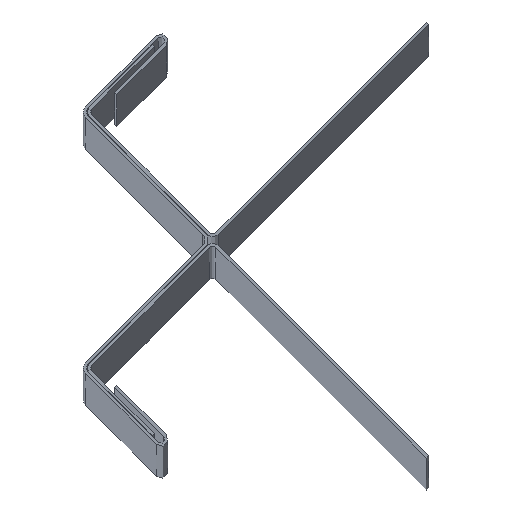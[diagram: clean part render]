
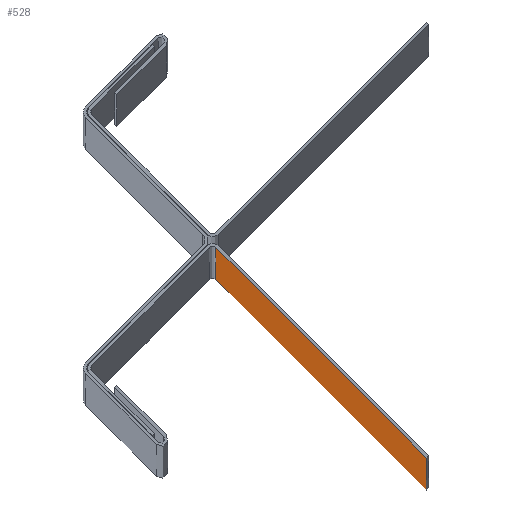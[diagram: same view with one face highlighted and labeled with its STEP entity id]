
A CAD part, top view. The second image highlights one B-rep face of the part: STEP entity #528.
In plain terms, the highlighted planar face has unit normal (0, 1, 0) by its records, which use the part's own axes.
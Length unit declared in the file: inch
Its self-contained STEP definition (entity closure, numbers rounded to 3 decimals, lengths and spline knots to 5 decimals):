
#11 = VERTEX_POINT ( 'NONE', #660 ) ;
#49 = ORIENTED_EDGE ( 'NONE', *, *, #1586, .T. ) ;
#142 = VECTOR ( 'NONE', #611, 39.37008 ) ;
#226 = EDGE_LOOP ( 'NONE', ( #1228, #708, #1257, #49 ) ) ;
#228 = EDGE_CURVE ( 'NONE', #1525, #307, #615, .T. ) ;
#307 = VERTEX_POINT ( 'NONE', #1255 ) ;
#323 = LINE ( 'NONE', #597, #895 ) ;
#396 = EDGE_CURVE ( 'NONE', #1525, #1450, #397, .T. ) ;
#397 = LINE ( 'NONE', #1913, #1296 ) ;
#528 = ADVANCED_FACE ( 'NONE', ( #768 ), #879, .T. ) ;
#597 = CARTESIAN_POINT ( 'NONE',  ( 2., 0.02, 120. ) ) ;
#611 = DIRECTION ( 'NONE',  ( 1., 0., 0. ) ) ;
#615 = LINE ( 'NONE', #951, #1735 ) ;
#624 = AXIS2_PLACEMENT_3D ( 'NONE', #882, #872, #1165 ) ;
#660 = CARTESIAN_POINT ( 'NONE',  ( 2., 0.02, 0. ) ) ;
#708 = ORIENTED_EDGE ( 'NONE', *, *, #396, .F. ) ;
#768 = FACE_OUTER_BOUND ( 'NONE', #226, .T. ) ;
#776 = EDGE_CURVE ( 'NONE', #1450, #11, #1556, .T. ) ;
#872 = DIRECTION ( 'NONE',  ( 0., 1., 0. ) ) ;
#879 = PLANE ( 'NONE',  #624 ) ;
#882 = CARTESIAN_POINT ( 'NONE',  ( 0.05, 0.02, 120. ) ) ;
#895 = VECTOR ( 'NONE', #1212, 39.37008 ) ;
#951 = CARTESIAN_POINT ( 'NONE',  ( 0.05, 0.02, 120. ) ) ;
#1165 = DIRECTION ( 'NONE',  ( -1., 0., 0. ) ) ;
#1212 = DIRECTION ( 'NONE',  ( 0., 0., -1. ) ) ;
#1228 = ORIENTED_EDGE ( 'NONE', *, *, #776, .F. ) ;
#1255 = CARTESIAN_POINT ( 'NONE',  ( 2., 0.02, 120. ) ) ;
#1257 = ORIENTED_EDGE ( 'NONE', *, *, #228, .T. ) ;
#1296 = VECTOR ( 'NONE', #1297, 39.37008 ) ;
#1297 = DIRECTION ( 'NONE',  ( 0., 0., -1. ) ) ;
#1450 = VERTEX_POINT ( 'NONE', #1953 ) ;
#1525 = VERTEX_POINT ( 'NONE', #1533 ) ;
#1529 = CARTESIAN_POINT ( 'NONE',  ( 0.05, 0.02, 0. ) ) ;
#1533 = CARTESIAN_POINT ( 'NONE',  ( 0.05, 0.02, 120. ) ) ;
#1556 = LINE ( 'NONE', #1529, #142 ) ;
#1586 = EDGE_CURVE ( 'NONE', #307, #11, #323, .T. ) ;
#1733 = DIRECTION ( 'NONE',  ( 1., 0., 0. ) ) ;
#1735 = VECTOR ( 'NONE', #1733, 39.37008 ) ;
#1913 = CARTESIAN_POINT ( 'NONE',  ( 0.05, 0.02, 120. ) ) ;
#1953 = CARTESIAN_POINT ( 'NONE',  ( 0.05, 0.02, 0. ) ) ;
